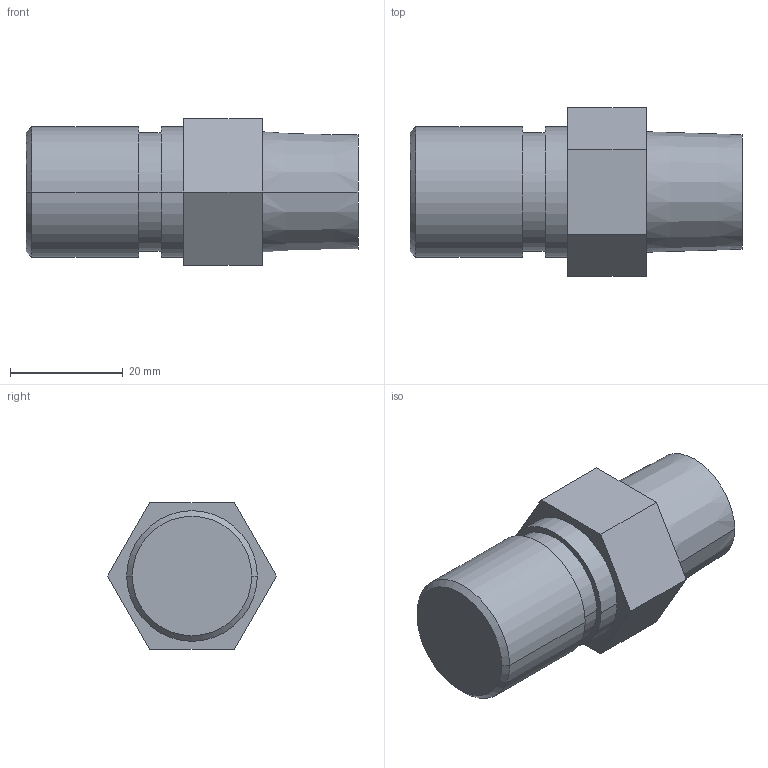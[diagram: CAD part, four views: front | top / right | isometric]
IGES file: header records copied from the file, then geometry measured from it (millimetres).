
Global section: file name: No Iges File Name specified; native system: Autodesk Inventor 2009; preprocessor: AutoDesk Inventor Iges Exporter R2009; author: y-shimohigashi; date: 20080702.105535; units: millimetre
Bounding box: 59 x 30.02 x 26 mm (x, y, z)
Volume: 25507.7 mm3; surface area: 5633.9 mm2
Topology: 1 solids, 1 shells, 22 faces, 46 edges, 30 vertices
Faces by surface type: plane 12, cylinder 6, cone 4
